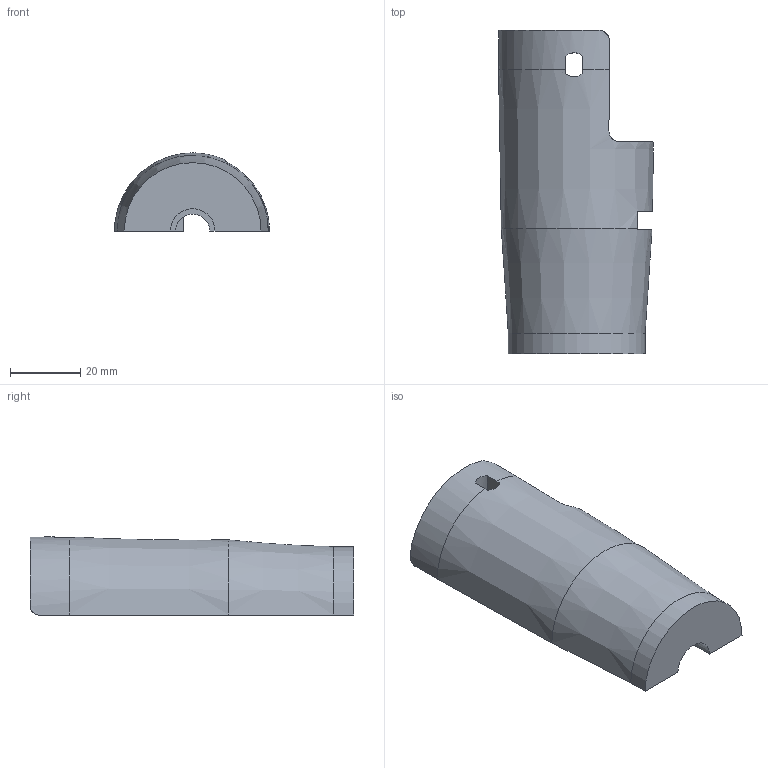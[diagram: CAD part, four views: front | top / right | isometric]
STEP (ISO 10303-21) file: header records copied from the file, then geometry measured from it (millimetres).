
FILE_DESCRIPTION((''),'2;1');
FILE_NAME('C:\Documents and Settings\Powderly\Desktop\ForeArmMatingSubstrate.stp','2005-08-09T02:09:06',('Powderly'),(''),'Autodesk Inventor 10','Autodesk Inventor 10','');
FILE_SCHEMA(('AUTOMOTIVE_DESIGN { 1 0 10303 214 1 1 1 1 }'));
Length unit declared in the file: inch
Products named in the file (1): ForeArmMatingSubstrate
Bounding box: 44.06 x 92.01 x 22.22 mm (x, y, z)
Volume: 28679.2 mm3; surface area: 12653.3 mm2
Topology: 1 solids, 1 shells, 76 faces, 210 edges, 139 vertices
Faces by surface type: plane 45, cylinder 23, cone 8
Entity records: 2545 total; most frequent: CARTESIAN_POINT 563, ORIENTED_EDGE 420, DIRECTION 398, EDGE_CURVE 210, VERTEX_POINT 139, VECTOR 136, LINE 136, AXIS2_PLACEMENT_3D 131
